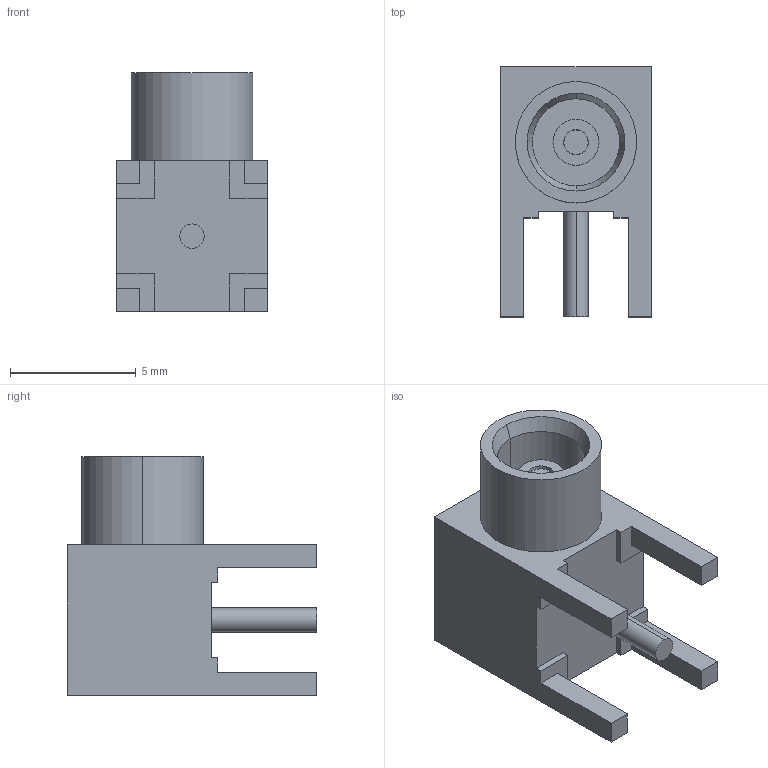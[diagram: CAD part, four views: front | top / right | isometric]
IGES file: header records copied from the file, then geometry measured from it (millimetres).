
Start section:  PTC IGES file: c-1061022-1-a-3d.igs
Global section: file name: c-1061022-1-a-3d.igs; native system: Pro/ENGINEER by Parametric Technology Corporation; preprocessor: 2009300; author: workeradm; organization: Unknown; units: inch
Bounding box: 5.99 x 9.93 x 9.5 mm (x, y, z)
Surface area: 415.6 mm2 (no closed solid volume)
Topology: 0 solids, 0 shells, 54 faces, 264 edges, 264 vertices
Faces by surface type: bspline 36, revolution 18
